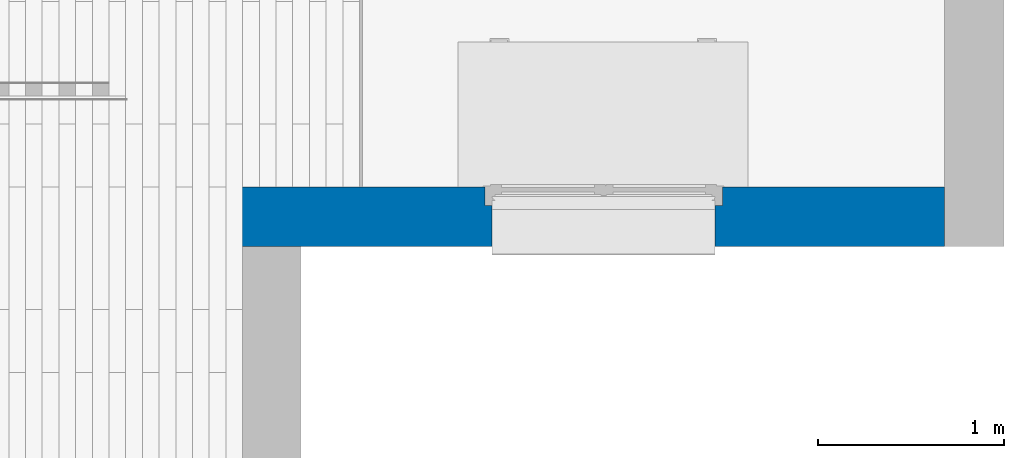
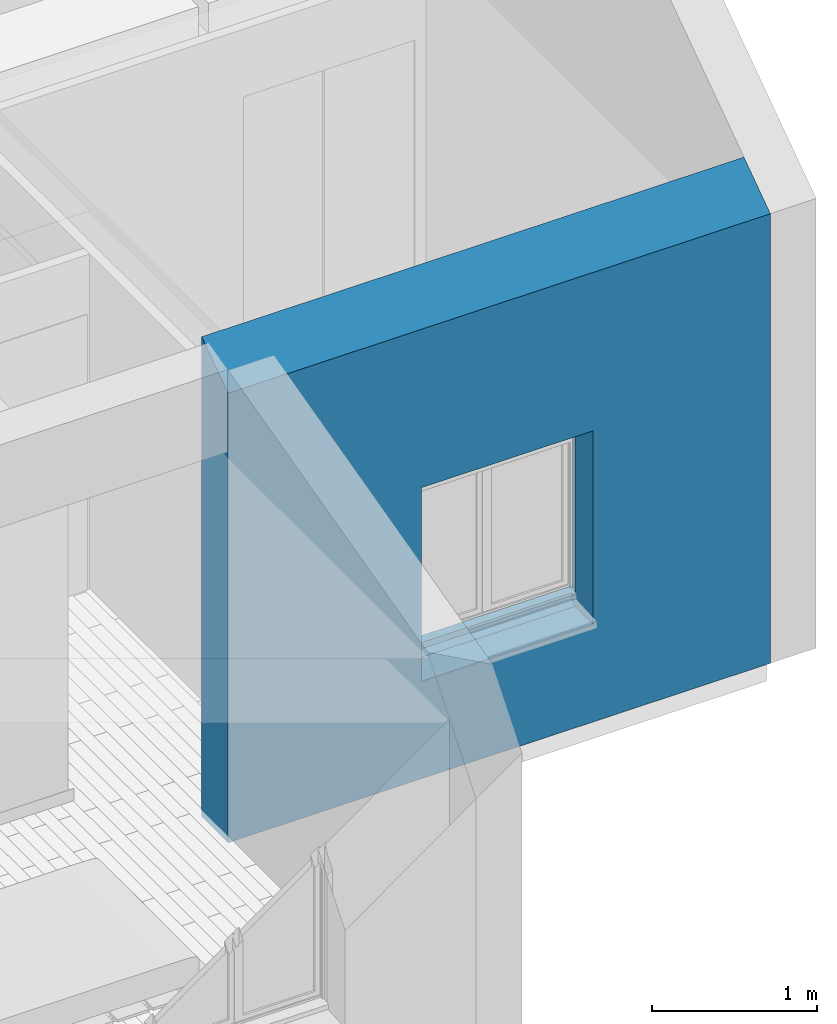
# One storey, part 28 of 50: 1 wall, 1 opening.
"""IFC2X3 building model written with IfcOpenShell, lengths in metres."""

import ifcopenshell
import ifcopenshell.guid

model = None  # the IFC model being written
_history = None  # IfcOwnerHistory: only IFC2X3 demands one
_inside = {}  # id of a spatial element -> (the spatial element, [elements in it])
_under = {}  # id of a project, library or spatial element -> (it, [spatial elements below it])
_declared = {}  # id of a project -> (the project, [libraries it declares])
_typed = {}  # id of a type object -> (the type object, [elements of that type])
_made_of = {}  # id of a material, layer set ... -> (it, [elements and type objects made of it])


def new_model(schema):
    """Start an empty IFC model of exactly this schema.

    Asked for "IFC4X3", IfcOpenShell would pick the latest addendum, in which some entities
    have other attributes; the version numbers below select the first issue.
    IFC2X3 requires an IfcOwnerHistory on every rooted entity: one is made here for all.
    """
    global model, _history
    if schema == "IFC4X3":
        model = ifcopenshell.file(schema_version=(4, 3, 0, 0))
    else:
        model = ifcopenshell.file(schema=schema)
    _inside.clear()
    _under.clear()
    _declared.clear()
    _typed.clear()
    _made_of.clear()
    _history = None
    if model.schema == "IFC2X3":
        org = make("IfcOrganization", Name="unknown")
        user = make(
            "IfcPersonAndOrganization",
            ThePerson=make("IfcPerson", FamilyName="unknown"),
            TheOrganization=org,
        )
        app = make(
            "IfcApplication",
            ApplicationDeveloper=org,
            Version="unknown",
            ApplicationFullName="unknown",
            ApplicationIdentifier="unknown",
        )
        _history = make(
            "IfcOwnerHistory",
            OwningUser=user,
            OwningApplication=app,
            ChangeAction="ADDED",
            CreationDate=0,
        )
    return model


def make(cls, **values):
    """One entity of the class cls with the attributes given. An attribute that is None is left unset."""
    return model.create_entity(
        cls, **{name: value for name, value in values.items() if value is not None}
    )


def entity(cls, *values):
    """Any entity or typed value of the class cls, its attributes in the order of the schema. None: left unset."""
    e = model.create_entity(cls)
    for i, value in enumerate(values):
        if value is not None:
            e[i] = value
    return e


def rooted(cls, **values):
    """An entity with a GlobalId (a new one), such as an element, a storey or a relation."""
    return make(cls, GlobalId=ifcopenshell.guid.new(), OwnerHistory=_history, **values)


def si_unit(unit_type, name, prefix=None):
    """IfcSIUnit, for example si_unit("LENGTHUNIT", "METRE", prefix="MILLI")."""
    return make("IfcSIUnit", UnitType=unit_type, Prefix=prefix, Name=name)


def converted_unit(unit_type, name, factor, base, dimensions=None, offset=None):
    """IfcConversionBasedUnit, such as the inch: factor (a typed value) times the base unit."""
    return make(
        "IfcConversionBasedUnit"
        if offset is None
        else "IfcConversionBasedUnitWithOffset",
        ConversionOffset=offset,
        Dimensions=None
        if dimensions is None
        else entity("IfcDimensionalExponents", *dimensions),
        UnitType=unit_type,
        Name=name,
        ConversionFactor=make(
            "IfcMeasureWithUnit", ValueComponent=factor, UnitComponent=base
        ),
    )


def derived_unit(unit_type, elements):
    """IfcDerivedUnit: a product of units, each with its exponent."""
    return make(
        "IfcDerivedUnit",
        Elements=[
            make("IfcDerivedUnitElement", Unit=unit, Exponent=power)
            for unit, power in elements
        ],
        UnitType=unit_type,
    )


def assignment(units):
    """IfcUnitAssignment: the units of a project."""
    return None if units is None else make("IfcUnitAssignment", Units=units)


def point(xyz):
    """IfcCartesianPoint."""
    return None if xyz is None else make("IfcCartesianPoint", Coordinates=xyz)


def direction(xyz):
    """IfcDirection."""
    return None if xyz is None else make("IfcDirection", DirectionRatios=xyz)


def frame(location, z_axis=None, x_axis=None):
    """IfcAxis2Placement3D, a coordinate frame: its origin and axes. An axis left out is left unset."""
    return make(
        "IfcAxis2Placement3D",
        Location=point(location),
        Axis=direction(z_axis),
        RefDirection=direction(x_axis),
    )


def frame_2d(location, x_axis=None):
    """IfcAxis2Placement2D, a coordinate frame in the plane: its origin and x axis."""
    return make(
        "IfcAxis2Placement2D", Location=point(location), RefDirection=direction(x_axis)
    )


def origin():
    """The frame at (0, 0, 0) with its axes left unset."""
    return frame((0.0, 0.0, 0.0))


def place(relative_to, where):
    """IfcLocalPlacement: puts the frame where relative to a parent placement (None: the world)."""
    return make(
        "IfcLocalPlacement", PlacementRelTo=relative_to, RelativePlacement=where
    )


def context(
    kind, dimensions, precision=None, world=None, true_north=None, identifier=None
):
    """IfcGeometricRepresentationContext, for example the 3D "Model" context."""
    return make(
        "IfcGeometricRepresentationContext",
        ContextIdentifier=identifier,
        ContextType=kind,
        CoordinateSpaceDimension=dimensions,
        Precision=precision,
        WorldCoordinateSystem=world,
        TrueNorth=true_north,
    )


def subcontext(parent, identifier, kind, view, scale=None):
    """IfcGeometricRepresentationSubContext, for example "Body" below "Model"."""
    return make(
        "IfcGeometricRepresentationSubContext",
        ContextIdentifier=identifier,
        ContextType=kind,
        ParentContext=parent,
        TargetScale=scale,
        TargetView=view,
    )


def project(units=None, contexts=None):
    """IfcProject with its units and contexts."""
    return rooted(
        "IfcProject",
        Name="project",
        RepresentationContexts=contexts,
        UnitsInContext=assignment(units),
    )


def spatial(cls, under=None, at=None, **own):
    """A site, building, storey or space (cls), placed at a placement, below another one or the project."""
    s = rooted(cls, ObjectPlacement=at, **own)
    if under is not None:
        _under.setdefault(under.id(), (under, []))[1].append(s)
    return s


def polyline(points):
    """IfcPolyline through the points."""
    return make("IfcPolyline", Points=[point(p) for p in points])


def profile(cls, at=None, kind="AREA", **sizes):
    """A parametric profile (cls). Its sizes go by their IFC names, for example OverallWidth=200.0."""
    return make(cls, ProfileType=kind, Position=at, **sizes)


def rectangle(**sizes):
    """IfcRectangleProfileDef."""
    return profile("IfcRectangleProfileDef", **sizes)


def extrude(swept, where, along, depth):
    """IfcExtrudedAreaSolid: the profile swept, set in the frame where, extruded along a direction by depth."""
    return make(
        "IfcExtrudedAreaSolid",
        SweptArea=swept,
        Position=where,
        ExtrudedDirection=direction(along),
        Depth=depth,
    )


def clip(a, b, op="DIFFERENCE"):
    """IfcBooleanClippingResult: the solid a cut by the half space b."""
    return make(
        "IfcBooleanClippingResult", Operator=op, FirstOperand=a, SecondOperand=b
    )


def bounded_halfspace(plane, agree, where, boundary):
    """IfcPolygonalBoundedHalfSpace: a half space limited to a polygon's prism."""
    return make(
        "IfcPolygonalBoundedHalfSpace",
        BaseSurface=make("IfcPlane", Position=plane),
        AgreementFlag=agree,
        Position=where,
        PolygonalBoundary=boundary,
    )


def faces_of(points, faces, orient=None, outer=None):
    """IfcFace entities. A face is a list of loops; a loop is a list of indices into points, from 0.

    orient and outer hold one flag for each loop. By default every Orientation is true, the
    first loop of a face is its IfcFaceOuterBound and the others are IfcFaceBound.
    """
    made = []
    for i, loops in enumerate(faces):
        bounds = []
        for j, loop in enumerate(loops):
            is_outer = j == 0 if outer is None else outer[i][j]
            bounds.append(
                make(
                    "IfcFaceOuterBound" if is_outer else "IfcFaceBound",
                    Bound=make("IfcPolyLoop", Polygon=[points[k] for k in loop]),
                    Orientation=True if orient is None else orient[i][j],
                )
            )
        made.append(make("IfcFace", Bounds=bounds))
    return made


def faceted_brep(points, faces, orient=None, outer=None, voids=None):
    """IfcFacetedBrep: a solid bounded by flat faces; with voids (closed shells), ...WithVoids."""
    shared = [point(p) for p in points]
    hull = make("IfcClosedShell", CfsFaces=faces_of(shared, faces, orient, outer))
    if voids is None:
        return make("IfcFacetedBrep", Outer=hull)
    return make(
        "IfcFacetedBrepWithVoids",
        Outer=hull,
        Voids=[
            make(cls, CfsFaces=faces_of(shared, fs, o, b)) for cls, fs, o, b in voids
        ],
    )


def shape(context_of_items, identifier, shape_type, items):
    """IfcShapeRepresentation: the items that make up one representation, for example the "Body"."""
    return make(
        "IfcShapeRepresentation",
        ContextOfItems=context_of_items,
        RepresentationIdentifier=identifier,
        RepresentationType=shape_type,
        Items=items,
    )


def material(Name=None, Category=None):
    """IfcMaterial."""
    return make("IfcMaterial", Name=Name, Category=Category)


def layer(
    of_material, thickness, ventilated=None, Name=None, Category=None, Priority=None
):
    """IfcMaterialLayer: one layer of a wall or slab, of a material (None: an air gap)."""
    return make(
        "IfcMaterialLayer",
        Material=of_material,
        LayerThickness=thickness,
        IsVentilated=ventilated,
        Name=Name,
        Category=Category,
        Priority=Priority,
    )


def layer_set(layers, Name=None):
    """IfcMaterialLayerSet."""
    return make("IfcMaterialLayerSet", MaterialLayers=layers, LayerSetName=Name)


def layer_usage(for_layer_set, set_direction, sense, offset, extent=None):
    """IfcMaterialLayerSetUsage: how a layer set lies in its element."""
    return make(
        "IfcMaterialLayerSetUsage",
        ForLayerSet=for_layer_set,
        LayerSetDirection=set_direction,
        DirectionSense=sense,
        OffsetFromReferenceLine=offset,
        ReferenceExtent=extent,
    )


def made_of(thing, what):
    """Note that an element or type object is made of a material, layer set ...; save() writes the relation."""
    if what is not None:
        _made_of.setdefault(what.id(), (what, []))[1].append(thing)
    return thing


def type_object(cls, material=None, **own):
    """A type object (cls), such as IfcWallType, which elements share."""
    return made_of(rooted(cls, **own), material)


def element(
    cls,
    number,
    at=None,
    inside=None,
    cuts=None,
    type_object=None,
    material=None,
    context=None,
    identifier="Body",
    shape_type=None,
    held_by="IfcProductDefinitionShape",
    body=None,
    shapes=None,
    **own,
):
    """One element of the class cls, such as IfcWall. Its Tag is "e" and its number.

    at: its placement. inside: the storey or other place that contains it. cuts: it is an
    opening in that element (IfcRelVoidsElement). A single representation is given by context,
    identifier, shape_type and body (its items); several are given by shapes. held_by: the class
    of the entity that holds the representations. save() writes the other relations.
    """
    e = rooted(cls, Tag="e%d" % number, ObjectPlacement=at, **own)
    if body is not None:
        shapes = [shape(context, identifier, shape_type, body)]
    if shapes is not None:
        e.Representation = make(held_by, Representations=shapes)
    if inside is not None:
        _inside.setdefault(inside.id(), (inside, []))[1].append(e)
    if cuts is not None:
        rooted(
            "IfcRelVoidsElement", RelatingBuildingElement=cuts, RelatedOpeningElement=e
        )
    if type_object is not None:
        _typed.setdefault(type_object.id(), (type_object, []))[1].append(e)
    return made_of(e, material)


def aggregate(whole, parts):
    """IfcRelAggregates: a whole, such as a stair, and the parts it consists of."""
    return rooted("IfcRelAggregates", RelatingObject=whole, RelatedObjects=parts)


def save(model, path):
    """Write the relations noted so far, then the file.

    IfcRelAggregates (storeys below a building ...), IfcRelContainedInSpatialStructure (elements
    in a storey), IfcRelDefinesByType, IfcRelAssociatesMaterial and IfcRelDeclares: one each for
    every whole, place, type object, material and project.
    """
    for whole, parts in _under.values():
        aggregate(whole, parts)
    for where, things in _inside.values():
        rooted(
            "IfcRelContainedInSpatialStructure",
            RelatedElements=things,
            RelatingStructure=where,
        )
    for kind, things in _typed.values():
        rooted("IfcRelDefinesByType", RelatedObjects=things, RelatingType=kind)
    for what, things in _made_of.values():
        rooted("IfcRelAssociatesMaterial", RelatedObjects=things, RelatingMaterial=what)
    for by, libraries in _declared.values():
        rooted("IfcRelDeclares", RelatingContext=by, RelatedDefinitions=libraries)
    model.write(path)


model = new_model("IFC2X3")

# Units and contexts
model_context = context("Model", 3, precision=1e-05, world=origin(), true_north=direction((6.12303176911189e-17, 1.0)))
context_of_model = context(None, 3, precision=1e-05, world=origin(), true_north=direction((6.12303176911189e-17, 1.0)))
body_context = subcontext(model_context, "Body", "Model", "MODEL_VIEW")
ifc_project = project(units=[si_unit("LENGTHUNIT", "METRE"), si_unit("AREAUNIT", "SQUARE_METRE"), si_unit("VOLUMEUNIT", "CUBIC_METRE"), converted_unit("PLANEANGLEUNIT", "DEGREE", entity("IfcRatioMeasure", 0.0174532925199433), si_unit("PLANEANGLEUNIT", "RADIAN"), dimensions=[0, 0, 0, 0, 0, 0, 0]), si_unit("MASSUNIT", "GRAM", prefix="KILO"), si_unit("TIMEUNIT", "SECOND"), si_unit("FREQUENCYUNIT", "HERTZ"), si_unit("THERMODYNAMICTEMPERATUREUNIT", "DEGREE_CELSIUS"), derived_unit("THERMALTRANSMITTANCEUNIT", [(si_unit("MASSUNIT", "GRAM", prefix="KILO"), 1), (si_unit("THERMODYNAMICTEMPERATUREUNIT", "KELVIN"), -1), (si_unit("TIMEUNIT", "SECOND"), -3)]), derived_unit("VOLUMETRICFLOWRATEUNIT", [(si_unit("LENGTHUNIT", "METRE"), 3), (si_unit("TIMEUNIT", "SECOND"), -1)]), si_unit("ELECTRICCURRENTUNIT", "AMPERE"), si_unit("ELECTRICVOLTAGEUNIT", "VOLT"), si_unit("POWERUNIT", "WATT"), si_unit("FORCEUNIT", "NEWTON", prefix="KILO"), si_unit("ILLUMINANCEUNIT", "LUX"), si_unit("LUMINOUSFLUXUNIT", "LUMEN"), si_unit("LUMINOUSINTENSITYUNIT", "CANDELA"), si_unit("PRESSUREUNIT", "PASCAL")], contexts=[model_context, context_of_model])

# Site, building, storey
site_placement = place(None, origin())
site = spatial("IfcSite", under=ifc_project, at=site_placement, Name="Surface", CompositionType="ELEMENT")
building_placement = place(site_placement, origin())
building = spatial("IfcBuilding", under=site, at=building_placement, CompositionType="ELEMENT")
storey_placement = place(building_placement, frame((0.0, 0.0, 2.82)))
storey = spatial("IfcBuildingStorey", under=building, at=storey_placement, Name="ETAGE", CompositionType="ELEMENT", Elevation=2.82)

# Wall, opening
ifc_material_1 = material(Name="Enduit blanc cassé2")
ifc_layer_1 = layer(ifc_material_1, 0.02)
ifc_material_2 = material(Name="Parpaing")
ifc_layer_2 = layer(ifc_material_2, 0.2)
ifc_material_3 = material(Name="Isolant")
ifc_layer_3 = layer(ifc_material_3, 0.1)
ifc_layer_set = layer_set([ifc_layer_1, ifc_layer_2, ifc_layer_3], Name="Mur de base:Ext. Parpaing 20 + Isolant 10 enduit blanc cassé")
ifc_layer_usage = layer_usage(ifc_layer_set, "AXIS2", "NEGATIVE", 0.16)
wall_type = type_object("IfcWallType", Name="Mur de base:Ext. Parpaing 20 + Isolant 10 enduit blanc cassé", PredefinedType="STANDARD", material=ifc_layer_set)
wall_placement = place(storey_placement, frame((90.8350487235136, 84.0875239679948, 0.0), z_axis=(0.0, 0.0, 1.0), x_axis=(-1.0, 0.0, 0.0)))
wall = element("IfcWallStandardCase", 1, at=wall_placement, inside=storey, type_object=wall_type, material=ifc_layer_usage, Name="Mur de base:Ext. Parpaing 20 + Isolant 10 enduit blanc cassé", ObjectType="Mur de base:Ext. Parpaing 20 + Isolant 10 enduit blanc cassé", context=body_context, shape_type="Clipping", body=[
    clip(extrude(rectangle(XDim=3.78826294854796, YDim=0.319999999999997, at=frame_2d((1.89413147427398, -7.49400541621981e-16), x_axis=(-1.0, 0.0))), origin(), (0.0, 0.0, 1.0), 3.54406641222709), bounded_halfspace(frame((0.0, -0.159999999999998, 3.54406641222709), z_axis=(0.0, 0.573576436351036, 0.819152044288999), x_axis=(-1.0, 0.0, 0.0)), False, frame((0.0, -0.159999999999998, 3.54406641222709)), polyline([(0.0, 0.0), (3.78826294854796, 0.0), (3.78826294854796, 0.319999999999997), (0.0, 0.319999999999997), (0.0, 0.0)]))),
])
opening_placement = place(wall_placement, frame((2.48826294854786, 0.5, 0.719999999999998), z_axis=(0.0, 0.0, 1.0), x_axis=(-1.0, 0.0, 0.0)))
element("IfcOpeningElement", 2, at=opening_placement, cuts=wall, Name="Mur de base:Ext. Parpaing 20 + Isolant 10 enduit blanc cassé", ObjectType="Opening", context=body_context, shape_type="Brep", body=[
    faceted_brep([(0.0499999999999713, 1.0, 1.43), (1.24999999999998, 1.0, 1.43), (1.24999999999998, 1.0, 0.0800000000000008), (0.0499999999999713, 1.0, 0.0800000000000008), (0.0499999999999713, 0.0, 1.43), (0.0499999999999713, 0.0, 0.0800000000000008), (1.24999999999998, 0.0, 0.0800000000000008), (1.24999999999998, 0.0, 1.43), (0.0499999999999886, 0.672999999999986, 1.43), (1.24999999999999, 0.672999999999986, 1.43), (1.24999999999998, 0.673000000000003, 0.0800000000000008), (1.28999999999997, 0.673000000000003, 0.0800000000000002), (1.28999999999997, 0.559999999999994, 0.0800000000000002), (1.24999999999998, 0.559999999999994, 0.0800000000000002), (1.24999999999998, 0.594999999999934, 0.0800000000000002), (0.0499999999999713, 0.594999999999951, 0.0800000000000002), (0.0499999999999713, 0.559999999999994, 0.0800000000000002), (0.0099999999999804, 0.559999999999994, 0.0800000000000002), (0.0099999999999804, 0.673000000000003, 0.0800000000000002), (0.0499999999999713, 0.673000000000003, 0.0800000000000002), (0.0099999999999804, 0.672999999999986, 1.47), (1.28999999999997, 0.672999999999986, 1.47), (1.28999999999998, 0.559999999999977, 1.47), (1.29999999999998, 0.559999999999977, 1.47), (1.29999999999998, 0.559999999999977, 1.65), (0.0, 0.559999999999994, 1.65), (0.0, 0.559999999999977, 1.47), (0.0099999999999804, 0.559999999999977, 1.47), (0.0499999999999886, 0.559999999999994, 1.43), (1.24999999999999, 0.559999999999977, 1.43), (1.29999999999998, 0.692999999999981, 1.65), (1.29999999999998, 0.692999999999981, 1.47), (0.0, 0.692999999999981, 1.65), (0.0, 0.692999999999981, 1.47), (1.24999999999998, 0.559999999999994, 0.0), (0.0499999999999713, 0.559999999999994, 0.0), (0.0499999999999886, 0.594999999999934, 0.0349999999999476), (1.24999999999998, 0.594999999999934, 0.0349999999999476), (1.24999999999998, 0.294999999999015, 0.0800000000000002), (0.0499999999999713, 0.294999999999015, 0.0800000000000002), (0.0499999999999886, 0.294999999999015, 0.0), (1.24999999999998, 0.294999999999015, 0.0)], [[[0, 1, 2, 3]], [[4, 5, 6, 7]], [[0, 8, 9, 1]], [[1, 9, 10, 2]], [[2, 10, 11, 12, 13, 14, 15, 16, 17, 18, 19, 3]], [[3, 19, 8, 0]], [[10, 9, 8, 19, 18, 20, 21, 11]], [[11, 21, 22, 12]], [[12, 22, 23, 24, 25, 26, 27, 17, 16, 28, 29, 13]], [[18, 17, 27, 20]], [[30, 24, 23, 31]], [[32, 33, 26, 25]], [[30, 32, 25, 24]], [[23, 22, 21, 20, 27, 26, 33, 31]], [[31, 33, 32, 30]], [[34, 35, 36, 37]], [[37, 36, 15, 14]], [[38, 39, 40, 41]], [[41, 40, 35, 34]], [[4, 28, 16, 15, 36, 35, 40, 39, 5]], [[5, 39, 38, 6]], [[6, 38, 41, 34, 37, 14, 13, 29, 7]], [[7, 29, 28, 4]]]),
])

save(model, "model.ifc")
